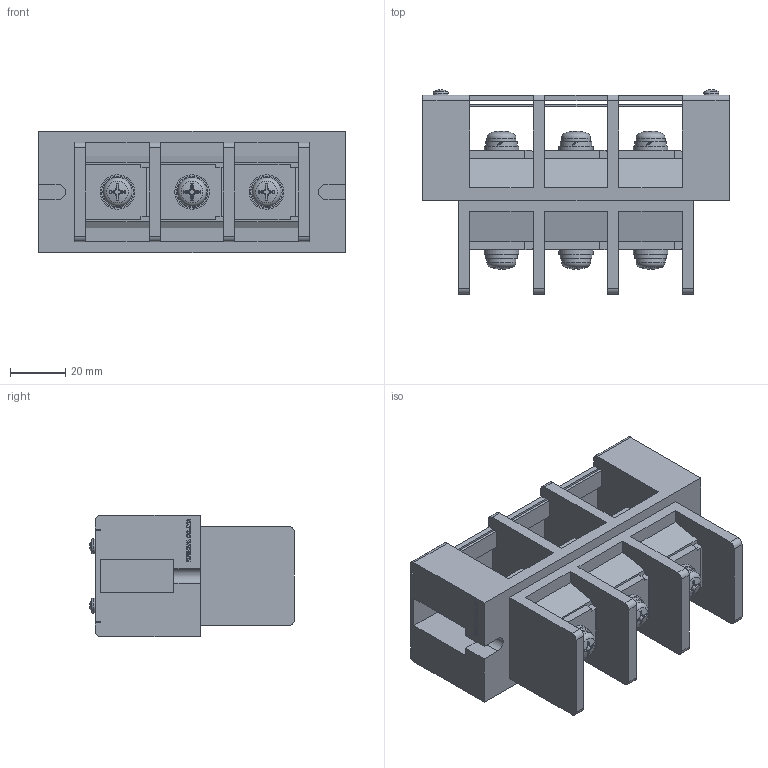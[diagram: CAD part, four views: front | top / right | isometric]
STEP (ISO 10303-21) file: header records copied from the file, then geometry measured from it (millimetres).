
FILE_DESCRIPTION(/* description */ ('Alibre Inc.'),/* implementation_level */ '2;1');
FILE_NAME(/* name */ 'export0',/* time_stamp */ '2016-04-05T18:08:39+09:00',/* author */ (''),/* organization */ (''),/* preprocessor_version */ 'ST-DEVELOPER v14',/* originating_system */ 'Alibre',/* authorisation */ '');
FILE_SCHEMA (('CONFIG_CONTROL_DESIGN'));
Length unit declared in the file: centimetre
Products named in the file (1): ID_1
Bounding box: 111 x 73.94 x 44 mm (x, y, z)
Volume: 131038.4 mm3; surface area: 57719.9 mm2
Topology: 5 solids, 7 shells, 643 faces, 1756 edges, 1149 vertices
Faces by surface type: plane 455, cylinder 82, bspline 52, cone 38, torus 8, sphere 8
Full cylindrical faces by diameter (mm): 3 x4, 5.5 x2, 6 x6, 8 x6, 10.5 x6, 12.5 x6
Entity records: 19380 total; most frequent: CARTESIAN_POINT 4122, ORIENTED_EDGE 3402, DIRECTION 2499, EDGE_CURVE 1701, VERTEX_POINT 1138, VECTOR 1134, LINE 1134, AXIS2_PLACEMENT_3D 906
